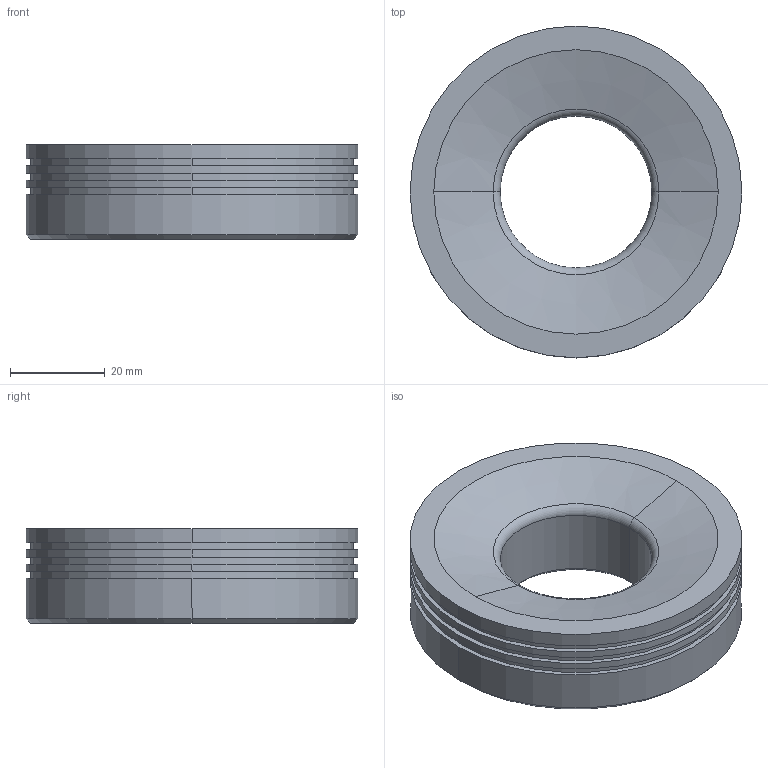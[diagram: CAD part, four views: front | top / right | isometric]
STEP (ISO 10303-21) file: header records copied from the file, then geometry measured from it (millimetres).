
FILE_DESCRIPTION((''),'2;1');
FILE_NAME('DRL7030','2020-03-28T',('ASUS'),(''),'PRO/ENGINEER BY PARAMETRIC TECHNOLOGY CORPORATION, 2008380','PRO/ENGINEER BY PARAMETRIC TECHNOLOGY CORPORATION, 2008380','');
FILE_SCHEMA(('CONFIG_CONTROL_DESIGN'));
Length unit declared in the file: millimetre
Products named in the file (1): DRL7030
Bounding box: 70 x 70 x 20 mm (x, y, z)
Volume: 56129.5 mm3; surface area: 13676.2 mm2
Topology: 1 solids, 5 shells, 68 faces, 152 edges, 92 vertices
Faces by surface type: cylinder 32, cone 22, plane 12, torus 2
Entity records: 1901 total; most frequent: DIRECTION 372, CARTESIAN_POINT 305, ORIENTED_EDGE 272, AXIS2_PLACEMENT_3D 159, EDGE_CURVE 144, VERTEX_POINT 92, CIRCLE 90, EDGE_LOOP 84
